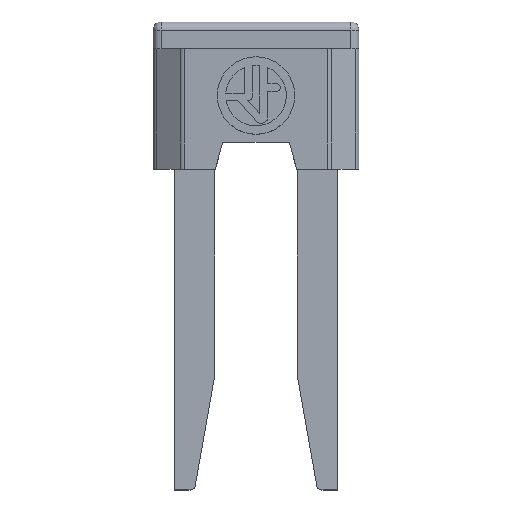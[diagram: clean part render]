
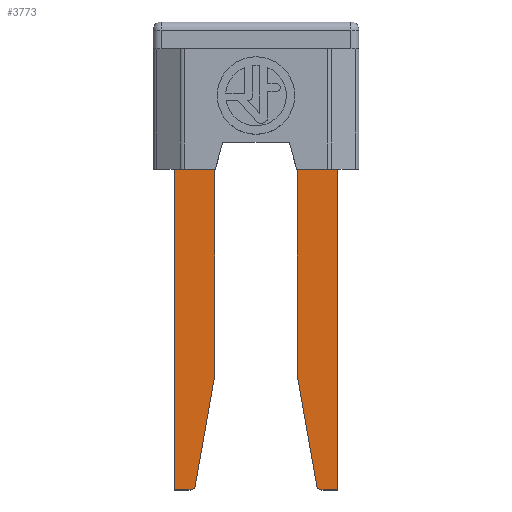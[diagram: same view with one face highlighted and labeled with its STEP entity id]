
A CAD part, top view. The second image highlights one B-rep face of the part: STEP entity #3773.
In plain terms, the highlighted planar face has unit normal (0, 0, 1).
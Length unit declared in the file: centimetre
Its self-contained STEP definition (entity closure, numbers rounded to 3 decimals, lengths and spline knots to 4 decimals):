
#70=CIRCLE('',#3984,0.02);
#71=CIRCLE('',#3987,0.02);
#115=FACE_BOUND('',#607,.T.);
#398=FACE_OUTER_BOUND('',#606,.T.);
#606=EDGE_LOOP('',(#3174,#3175,#3176,#3177,#3178,#3179,#3180,#3181,#3182,
#3183,#3184,#3185,#3186,#3187,#3188,#3189));
#607=EDGE_LOOP('',(#3190,#3191,#3192,#3193));
#962=LINE('',#6220,#1350);
#965=LINE('',#6225,#1353);
#967=LINE('',#6229,#1355);
#970=LINE('',#6241,#1358);
#973=LINE('',#6247,#1361);
#974=LINE('',#6249,#1362);
#975=LINE('',#6251,#1363);
#976=LINE('',#6253,#1364);
#977=LINE('',#6255,#1365);
#978=LINE('',#6257,#1366);
#979=LINE('',#6259,#1367);
#980=LINE('',#6263,#1368);
#981=LINE('',#6265,#1369);
#982=LINE('',#6267,#1370);
#983=LINE('',#6269,#1371);
#984=LINE('',#6271,#1372);
#985=LINE('',#6272,#1373);
#986=LINE('',#6273,#1374);
#1350=VECTOR('',#4718,0.15);
#1353=VECTOR('',#4723,0.15);
#1355=VECTOR('',#4727,0.15);
#1358=VECTOR('',#4738,0.0582);
#1361=VECTOR('',#4743,0.4151);
#1362=VECTOR('',#4744,0.7982);
#1363=VECTOR('',#4745,0.0814);
#1364=VECTOR('',#4746,0.2543);
#1365=VECTOR('',#4747,0.0814);
#1366=VECTOR('',#4748,0.7982);
#1367=VECTOR('',#4749,0.4151);
#1368=VECTOR('',#4752,0.0582);
#1369=VECTOR('',#4753,1.25);
#1370=VECTOR('',#4754,0.4257);
#1371=VECTOR('',#4755,0.3188);
#1372=VECTOR('',#4756,0.4257);
#1373=VECTOR('',#4757,1.25);
#1374=VECTOR('',#4758,0.15);
#1703=VERTEX_POINT('',#6217);
#1704=VERTEX_POINT('',#6219);
#1705=VERTEX_POINT('',#6223);
#1706=VERTEX_POINT('',#6227);
#1709=VERTEX_POINT('',#6234);
#1710=VERTEX_POINT('',#6236);
#1711=VERTEX_POINT('',#6240);
#1713=VERTEX_POINT('',#6246);
#1714=VERTEX_POINT('',#6248);
#1715=VERTEX_POINT('',#6250);
#1716=VERTEX_POINT('',#6252);
#1717=VERTEX_POINT('',#6254);
#1718=VERTEX_POINT('',#6256);
#1719=VERTEX_POINT('',#6258);
#1720=VERTEX_POINT('',#6260);
#1721=VERTEX_POINT('',#6262);
#1722=VERTEX_POINT('',#6264);
#1723=VERTEX_POINT('',#6266);
#1724=VERTEX_POINT('',#6268);
#1725=VERTEX_POINT('',#6270);
#2196=EDGE_CURVE('',#1704,#1703,#962,.T.);
#2199=EDGE_CURVE('',#1703,#1705,#965,.T.);
#2201=EDGE_CURVE('',#1705,#1706,#967,.T.);
#2204=EDGE_CURVE('',#1709,#1710,#70,.T.);
#2206=EDGE_CURVE('',#1711,#1710,#970,.T.);
#2209=EDGE_CURVE('',#1713,#1709,#973,.T.);
#2210=EDGE_CURVE('',#1713,#1714,#974,.T.);
#2211=EDGE_CURVE('',#1714,#1715,#975,.T.);
#2212=EDGE_CURVE('',#1715,#1716,#976,.T.);
#2213=EDGE_CURVE('',#1716,#1717,#977,.T.);
#2214=EDGE_CURVE('',#1717,#1718,#978,.T.);
#2215=EDGE_CURVE('',#1719,#1718,#979,.T.);
#2216=EDGE_CURVE('',#1720,#1719,#71,.T.);
#2217=EDGE_CURVE('',#1720,#1721,#980,.T.);
#2218=EDGE_CURVE('',#1721,#1722,#981,.T.);
#2219=EDGE_CURVE('',#1722,#1723,#982,.T.);
#2220=EDGE_CURVE('',#1723,#1724,#983,.T.);
#2221=EDGE_CURVE('',#1724,#1725,#984,.T.);
#2222=EDGE_CURVE('',#1725,#1711,#985,.T.);
#2223=EDGE_CURVE('',#1706,#1704,#986,.T.);
#3174=ORIENTED_EDGE('',*,*,#2204,.F.);
#3175=ORIENTED_EDGE('',*,*,#2209,.F.);
#3176=ORIENTED_EDGE('',*,*,#2210,.T.);
#3177=ORIENTED_EDGE('',*,*,#2211,.T.);
#3178=ORIENTED_EDGE('',*,*,#2212,.T.);
#3179=ORIENTED_EDGE('',*,*,#2213,.T.);
#3180=ORIENTED_EDGE('',*,*,#2214,.T.);
#3181=ORIENTED_EDGE('',*,*,#2215,.F.);
#3182=ORIENTED_EDGE('',*,*,#2216,.F.);
#3183=ORIENTED_EDGE('',*,*,#2217,.T.);
#3184=ORIENTED_EDGE('',*,*,#2218,.T.);
#3185=ORIENTED_EDGE('',*,*,#2219,.T.);
#3186=ORIENTED_EDGE('',*,*,#2220,.T.);
#3187=ORIENTED_EDGE('',*,*,#2221,.T.);
#3188=ORIENTED_EDGE('',*,*,#2222,.T.);
#3189=ORIENTED_EDGE('',*,*,#2206,.T.);
#3190=ORIENTED_EDGE('',*,*,#2199,.T.);
#3191=ORIENTED_EDGE('',*,*,#2201,.T.);
#3192=ORIENTED_EDGE('',*,*,#2223,.T.);
#3193=ORIENTED_EDGE('',*,*,#2196,.T.);
#3386=PLANE('',#3986);
#3773=ADVANCED_FACE('',(#398,#115),#3386,.F.);
#3984=AXIS2_PLACEMENT_3D('',#6237,#4733,#4734);
#3986=AXIS2_PLACEMENT_3D('',#6245,#4741,#4742);
#3987=AXIS2_PLACEMENT_3D('',#6261,#4750,#4751);
#4718=DIRECTION('',(-1.,0.,0.));
#4723=DIRECTION('',(0.,1.,0.));
#4727=DIRECTION('',(1.,0.,0.));
#4733=DIRECTION('center_axis',(0.,0.,
-1.));
#4734=DIRECTION('ref_axis',(0.643,-0.766,0.));
#4738=DIRECTION('',(1.,0.,0.));
#4741=DIRECTION('center_axis',(0.,0.,
-1.));
#4742=DIRECTION('ref_axis',(-1.,0.,0.));
#4743=DIRECTION('',(-0.174,-0.985,0.));
#4744=DIRECTION('',(0.,1.,0.));
#4745=DIRECTION('',(0.342,0.94,0.));
#4746=DIRECTION('',(1.,0.,0.));
#4747=DIRECTION('',(0.342,-0.94,0.));
#4748=DIRECTION('',(0.,-1.,0.));
#4749=DIRECTION('',(-0.174,0.985,0.));
#4750=DIRECTION('center_axis',(0.,0.,
-1.));
#4751=DIRECTION('ref_axis',(-0.643,-0.766,0.));
#4752=DIRECTION('',(1.,0.,0.));
#4753=DIRECTION('',(0.,1.,0.));
#4754=DIRECTION('',(-0.342,0.94,0.));
#4755=DIRECTION('',(-1.,0.,0.));
#4756=DIRECTION('',(-0.342,-0.94,0.));
#4757=DIRECTION('',(0.,-1.,0.));
#4758=DIRECTION('',(0.,-1.,0.));
#6217=CARTESIAN_POINT('',(0.31,0.2,0.165));
#6219=CARTESIAN_POINT('',(0.46,0.2,0.165));
#6220=CARTESIAN_POINT('',(0.4225,0.2,0.165));
#6223=CARTESIAN_POINT('',(0.31,0.35,0.165));
#6225=CARTESIAN_POINT('',(0.31,-0.1082,0.165));
#6227=CARTESIAN_POINT('',(0.46,0.35,0.165));
#6229=CARTESIAN_POINT('',(0.3475,0.35,0.165));
#6234=CARTESIAN_POINT('',(0.1579,-1.1835,0.165));
#6236=CARTESIAN_POINT('',(0.1382,-1.2,0.165));
#6237=CARTESIAN_POINT('Origin',(0.1382,-1.18,0.165));
#6240=CARTESIAN_POINT('',(0.08,-1.2,0.165));
#6241=CARTESIAN_POINT('',(0.08,-1.2,0.165));
#6245=CARTESIAN_POINT('Origin',(0.385,-0.4163,0.165));
#6246=CARTESIAN_POINT('',(0.23,-0.7747,0.165));
#6247=CARTESIAN_POINT('',(0.2442,-0.694,0.165));
#6248=CARTESIAN_POINT('',(0.23,0.0236,0.165));
#6249=CARTESIAN_POINT('',(0.23,-1.2,0.165));
#6250=CARTESIAN_POINT('',(0.2578,0.1,0.165));
#6251=CARTESIAN_POINT('',(0.23,0.0236,0.165));
#6252=CARTESIAN_POINT('',(0.5122,0.1,0.165));
#6253=CARTESIAN_POINT('',(0.2578,0.1,0.165));
#6254=CARTESIAN_POINT('',(0.54,0.0236,0.165));
#6255=CARTESIAN_POINT('',(0.5122,0.1,0.165));
#6256=CARTESIAN_POINT('',(0.54,-0.7747,0.165));
#6257=CARTESIAN_POINT('',(0.54,0.0236,0.165));
#6258=CARTESIAN_POINT('',(0.6121,-1.1835,0.165));
#6259=CARTESIAN_POINT('',(0.5258,-0.694,0.165));
#6260=CARTESIAN_POINT('',(0.6318,-1.2,0.165));
#6261=CARTESIAN_POINT('Origin',(0.6318,-1.18,0.165));
#6262=CARTESIAN_POINT('',(0.69,-1.2,0.165));
#6263=CARTESIAN_POINT('',(0.54,-1.2,0.165));
#6264=CARTESIAN_POINT('',(0.69,0.05,0.165));
#6265=CARTESIAN_POINT('',(0.69,-1.2,0.165));
#6266=CARTESIAN_POINT('',(0.5444,0.45,0.165));
#6267=CARTESIAN_POINT('',(0.69,0.05,0.165));
#6268=CARTESIAN_POINT('',(0.2256,0.45,0.165));
#6269=CARTESIAN_POINT('',(0.5444,0.45,0.165));
#6270=CARTESIAN_POINT('',(0.08,0.05,0.165));
#6271=CARTESIAN_POINT('',(0.2256,0.45,0.165));
#6272=CARTESIAN_POINT('',(0.08,0.05,0.165));
#6273=CARTESIAN_POINT('',(0.46,-0.0332,0.165));
